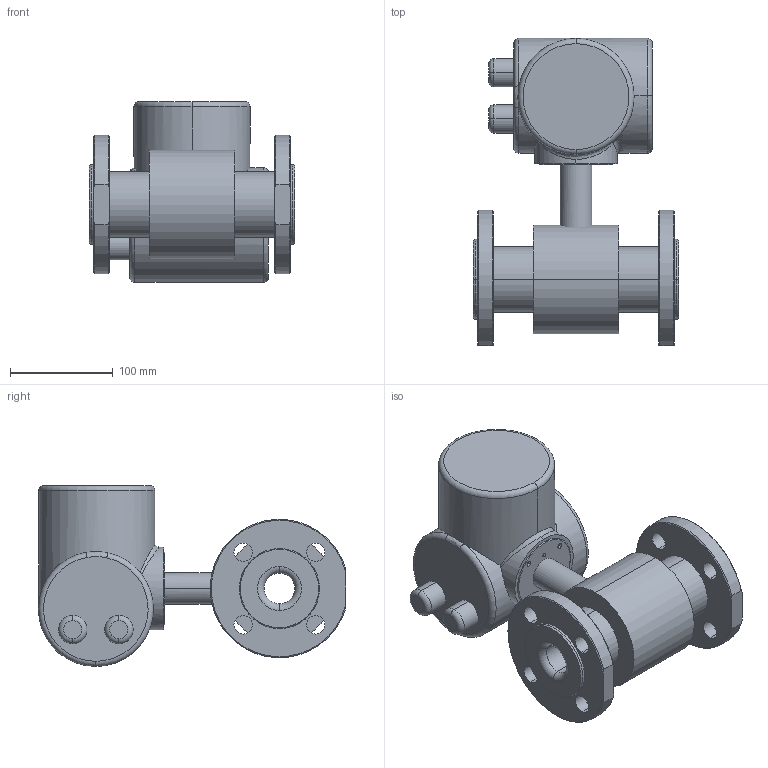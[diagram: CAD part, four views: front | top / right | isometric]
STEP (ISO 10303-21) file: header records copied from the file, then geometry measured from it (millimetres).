
FILE_DESCRIPTION (( 'STEP AP203' ), '1' );
FILE_NAME ('Ðàñõîäîìåð-ñ÷åò÷èê ýëåêòðîìàãíèòíûé ÏÈÒÅÐÔËÎÓ Ò3 - 32 Ex.STEP', '2022-06-24T07:56:02', ( '' ), ( '' ), 'SwSTEP 2.0', 'SolidWorks 2016', '' );
FILE_SCHEMA (( 'CONFIG_CONTROL_DESIGN' ));
Length unit declared in the file: millimetre
Products named in the file (1): Ðàñõîäîìåð-ñ÷åò÷èê ýëåêòðîìàãíèòíûé ÏÈÒÅÐÔËÎÓ Ò3 - 32 Ex
Bounding box: 200.6 x 299.5 x 176.4 mm (x, y, z)
Volume: 3431444.8 mm3; surface area: 268236.5 mm2
Topology: 5 solids, 5 shells, 225 faces, 546 edges, 342 vertices
Faces by surface type: cylinder 98, cone 64, plane 44, torus 14, bspline 4, sphere 1
Entity records: 9330 total; most frequent: CARTESIAN_POINT 3888, DIRECTION 1177, ORIENTED_EDGE 1084, EDGE_CURVE 542, AXIS2_PLACEMENT_3D 503, VERTEX_POINT 342, CIRCLE 281, EDGE_LOOP 272
